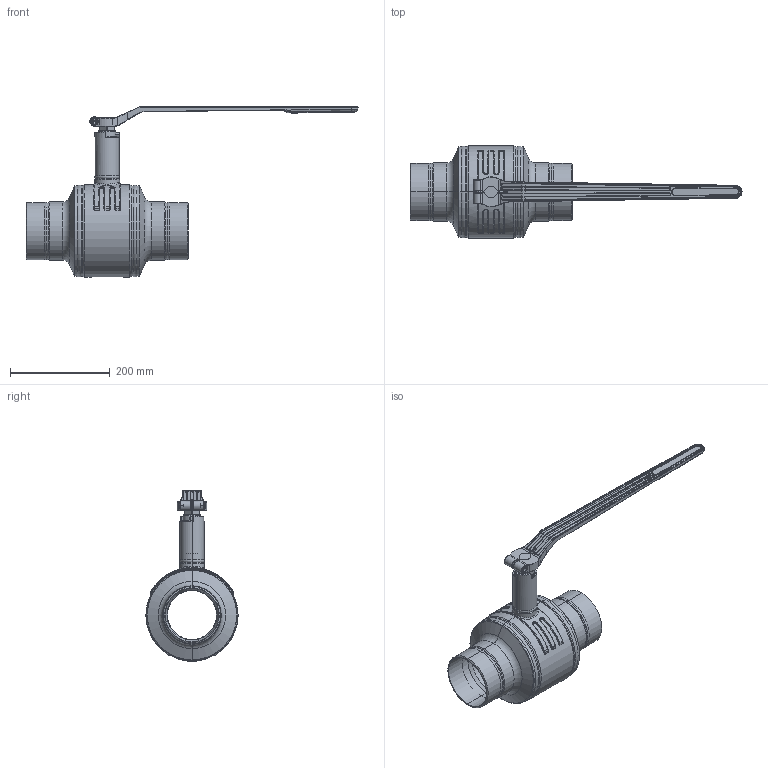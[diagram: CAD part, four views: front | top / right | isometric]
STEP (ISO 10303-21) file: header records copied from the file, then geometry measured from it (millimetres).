
FILE_DESCRIPTION((''),'2;1');
FILE_NAME('KHMO-S-V-H-100P040-VI_SW0001','2022-10-19T08:27:56',('jeitlers'),('KLINGER'),'CREO PARAMETRIC BY PTC INC, 2020184','CREO PARAMETRIC BY PTC INC, 2020184','');
FILE_SCHEMA(('AUTOMOTIVE_DESIGN { 1 0 10303 214 1 1 1 1 }'));
Length unit declared in the file: millimetre
Products named in the file (1): KHMO-S-V-H-100P040-VI_SW0001
Bounding box: 665.3 x 185 x 341.5 mm (x, y, z)
Volume: 2282837.3 mm3; surface area: 642176.2 mm2
Topology: 2 solids, 2 shells, 963 faces, 2307 edges, 1346 vertices
Faces by surface type: cylinder 324, torus 190, plane 169, bspline 163, cone 98, sphere 10, extrusion 8, revolution 1
Entity records: 57019 total; most frequent: CARTESIAN_POINT 34334, ORIENTED_EDGE 4580, DIRECTION 4507, EDGE_CURVE 2290, AXIS2_PLACEMENT_3D 1875, VERTEX_POINT 1346, CIRCLE 1066, EDGE_LOOP 1004
